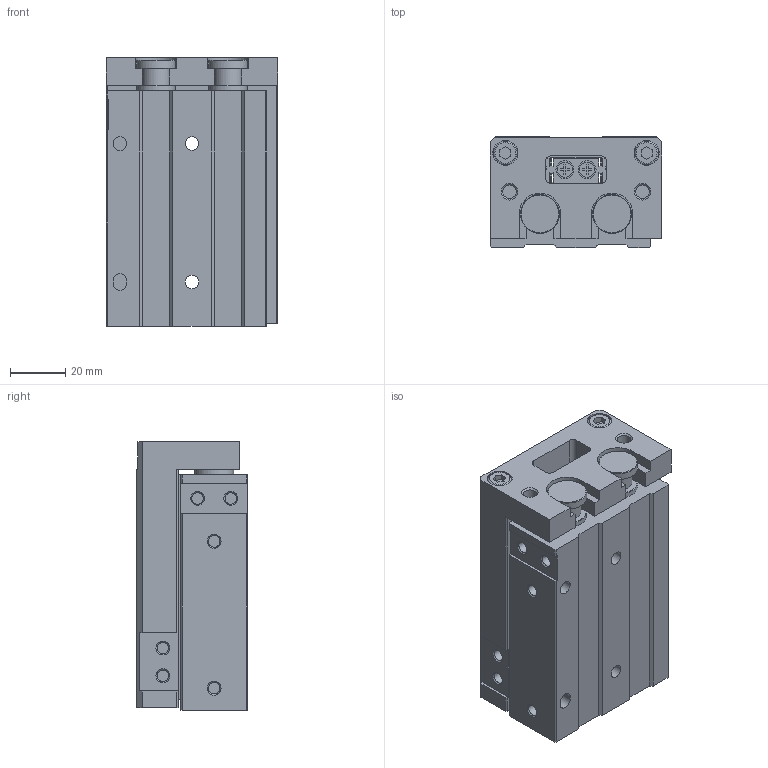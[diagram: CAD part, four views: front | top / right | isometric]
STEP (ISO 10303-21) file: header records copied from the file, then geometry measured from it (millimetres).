
FILE_DESCRIPTION( ( 'STEP AP214' ), '1' );
FILE_NAME( 'C:/Users/EMC02301/Desktop/ELS图纸/ELS16X40-S.stp', '2026-08-05T06:01:47', ( 'License CC BY-ND 4.0' ), ( 'CADENAS' ), ' ', 'PARTsolutions', ' ' );
FILE_SCHEMA( ( 'AUTOMOTIVE_DESIGN { 1 0 10303 214 1 1 1 1 }' ) );
Length unit declared in the file: millimetre
Products named in the file (3): ELS16X40-S(0)(); _ELS16X40-S(HX-07)(HX-07-1)(0-body); _ELS16X40-S(0-rod)
Assembly tree (2 placements, depth 2):
  ELS16X40-S(0)()
    _ELS16X40-S(HX-07)(HX-07-1)(0-body)
    _ELS16X40-S(0-rod)
Bounding box: 62 x 40 x 97 mm (x, y, z)
Volume: 191872.8 mm3; surface area: 62087.3 mm2
Topology: 2 solids, 2 shells, 406 faces, 998 edges, 655 vertices
Faces by surface type: plane 304, cylinder 76, cone 24, torus 2
Full cylindrical faces by diameter (mm): 4.134 x14, 4.917 x4, 5 x2, 5.1 x2, 5.5 x8, 6.5 x8, 8 x4, 8.5 x2, 9 x2, 10.5 x4, 14 x6, 16 x4, 18 x2
Entity records: 14683 total; most frequent: CARTESIAN_POINT 1956, DIRECTION 1903, ORIENTED_EDGE 1802, EDGE_CURVE 901, LINE 717, VECTOR 717, VERTEX_POINT 646, AXIS2_PLACEMENT_3D 593
